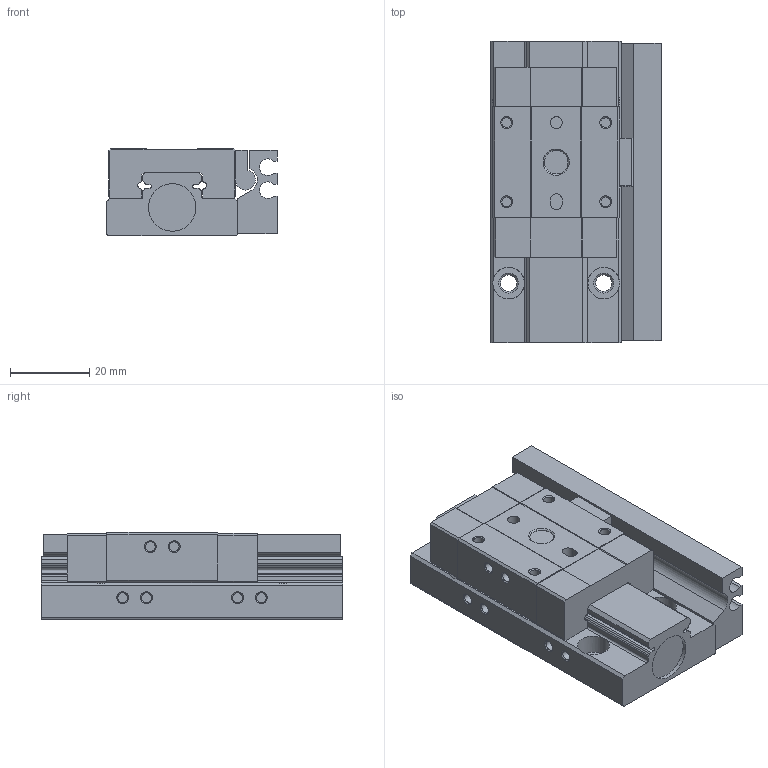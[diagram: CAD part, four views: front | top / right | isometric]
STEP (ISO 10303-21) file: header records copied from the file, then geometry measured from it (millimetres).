
FILE_DESCRIPTION(/* description */ ('STEP AP214'),/* implementation_level */ '2;1');
FILE_NAME(/* name */ 'HGS12X15S(0)',/* time_stamp */ '2024-09-22T10:38:54+02:00',/* author */ ('License CC BY-ND 4.0'),/* organization */ ('CADENAS'),/* preprocessor_version */ 'ST-DEVELOPER v19.3',/* originating_system */ 'PARTsolutions',/* authorisation */ ' ');
FILE_SCHEMA (('AUTOMOTIVE_DESIGN {1 0 10303 214 3 1 1}'));
Length unit declared in the file: millimetre
Products named in the file (5): HGS12X15S(0); HGS12X15S(0)_dummy; HGS12X15S(0)_body; F-HGS12X15H; HGS12X15S(0)_t
Assembly tree (4 placements, depth 2):
  HGS12X15S(0)
    HGS12X15S(0)_dummy
    HGS12X15S(0)_body
    F-HGS12X15H
    HGS12X15S(0)_t
Bounding box: 43 x 76 x 22 mm (x, y, z)
Volume: 51593.6 mm3; surface area: 23434 mm2
Topology: 3 solids, 5 shells, 262 faces, 608 edges, 393 vertices
Faces by surface type: plane 150, cylinder 82, cone 30
Full cylindrical faces by diameter (mm): 1 x2, 2.459 x16, 3 x4, 3.5 x2, 3.9 x2, 4.134 x8, 5.5 x2, 6 x4, 8 x4, 12 x2
Entity records: 7150 total; most frequent: DIRECTION 1264, CARTESIAN_POINT 1180, ORIENTED_EDGE 1052, EDGE_CURVE 526, AXIS2_PLACEMENT_3D 471, EDGE_LOOP 388, FACE_BOUND 388, VERTEX_POINT 386
